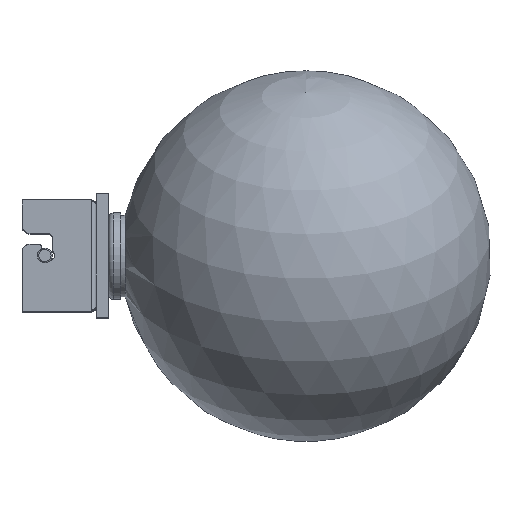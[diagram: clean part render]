
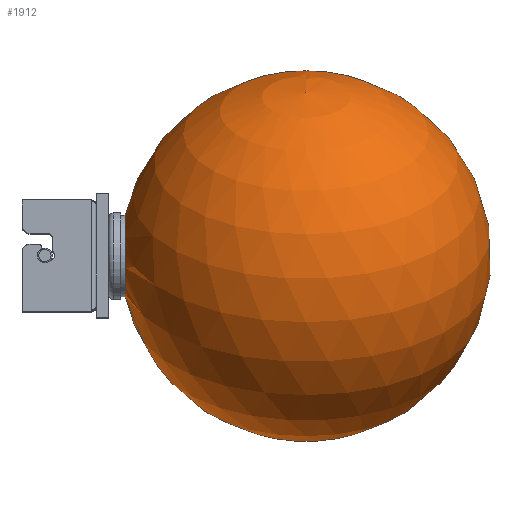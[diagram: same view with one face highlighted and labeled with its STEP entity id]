
A CAD part, top view. The second image highlights one B-rep face of the part: STEP entity #1912.
In plain terms, the highlighted spherical face has radius 75 mm.
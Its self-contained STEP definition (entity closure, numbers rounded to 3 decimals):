
#40=B_SPLINE_CURVE_WITH_KNOTS('',3,(#3451,#3452,#3453,#3454,#3455,#3456,
#3457,#3458,#3459,#3460,#3461,#3462,#3463,#3464,#3465,#3466,#3467,#3468,
#3469,#3470,#3471,#3472,#3473,#3474,#3475,#3476,#3477,#3478,#3479,#3480,
#3481,#3482,#3483,#3484),.UNSPECIFIED.,.F.,.F.,(4,2,2,2,2,2,2,2,2,2,2,2,
2,2,2,2,4),(0.,0.311,0.622,0.932,1.243,
1.554,1.865,2.175,2.486,2.797,
3.108,3.418,3.729,4.04,4.351,
4.662,4.972),.UNSPECIFIED.);
#41=B_SPLINE_CURVE_WITH_KNOTS('',3,(#3485,#3486,#3487,#3488,#3489,#3490,
#3491,#3492,#3493,#3494,#3495,#3496,#3497,#3498,#3499,#3500,#3501,#3502,
#3503,#3504,#3505,#3506,#3507,#3508,#3509,#3510,#3511,#3512,#3513,#3514,
#3515,#3516,#3517,#3518),.UNSPECIFIED.,.F.,.F.,(4,2,2,2,2,2,2,2,2,2,2,2,
2,2,2,2,4),(4.972,5.283,5.594,5.905,
6.215,6.526,6.837,7.148,7.458,
7.769,8.08,8.391,8.701,9.012,
9.323,9.634,9.945),.UNSPECIFIED.);
#50=FACE_BOUND('',#341,.T.);
#56=SPHERICAL_SURFACE('',#2115,75.);
#222=FACE_OUTER_BOUND('',#340,.T.);
#340=EDGE_LOOP('',(#1703,#1704));
#341=EDGE_LOOP('',(#1705,#1706));
#437=CIRCLE('',#2116,75.);
#924=VERTEX_POINT('',#3446);
#925=VERTEX_POINT('',#3447);
#926=VERTEX_POINT('',#3449);
#927=VERTEX_POINT('',#3450);
#1190=EDGE_CURVE('',#924,#925,#437,.T.);
#1191=EDGE_CURVE('',#926,#927,#40,.T.);
#1192=EDGE_CURVE('',#927,#926,#41,.T.);
#1703=ORIENTED_EDGE('',*,*,#1190,.T.);
#1704=ORIENTED_EDGE('',*,*,#1190,.F.);
#1705=ORIENTED_EDGE('',*,*,#1191,.T.);
#1706=ORIENTED_EDGE('',*,*,#1192,.T.);
#1912=ADVANCED_FACE('',(#222,#50),#56,.T.);
#2115=AXIS2_PLACEMENT_3D('',#3445,#2627,#2628);
#2116=AXIS2_PLACEMENT_3D('',#3448,#2629,#2630);
#2627=DIRECTION('center_axis',(0.,-0.883,-0.469));
#2628=DIRECTION('ref_axis',(0.,-0.469,0.883));
#2629=DIRECTION('center_axis',(1.,0.,0.));
#2630=DIRECTION('ref_axis',(0.,0.469,-0.883));
#3445=CARTESIAN_POINT('Origin',(114.911,0.052,75.));
#3446=CARTESIAN_POINT('',(114.911,-66.194,39.837));
#3447=CARTESIAN_POINT('',(114.911,66.298,110.163));
#3448=CARTESIAN_POINT('Origin',(114.911,0.052,75.));
#3449=CARTESIAN_POINT('',(41.77,-13.987,83.851));
#3450=CARTESIAN_POINT('',(41.727,13.987,66.344));
#3451=CARTESIAN_POINT('Ctrl Pts',(41.77,-13.987,83.851));
#3452=CARTESIAN_POINT('Ctrl Pts',(41.77,-14.536,82.973));
#3453=CARTESIAN_POINT('Ctrl Pts',(41.769,-15.02,82.013));
#3454=CARTESIAN_POINT('Ctrl Pts',(41.766,-15.797,79.985));
#3455=CARTESIAN_POINT('Ctrl Pts',(41.765,-16.089,78.918));
#3456=CARTESIAN_POINT('Ctrl Pts',(41.763,-16.454,76.748));
#3457=CARTESIAN_POINT('Ctrl Pts',(41.761,-16.527,75.644));
#3458=CARTESIAN_POINT('Ctrl Pts',(41.758,-16.456,73.473));
#3459=CARTESIAN_POINT('Ctrl Pts',(41.757,-16.312,72.407));
#3460=CARTESIAN_POINT('Ctrl Pts',(41.754,-15.847,70.388));
#3461=CARTESIAN_POINT('Ctrl Pts',(41.752,-15.511,69.366));
#3462=CARTESIAN_POINT('Ctrl Pts',(41.749,-14.626,67.383));
#3463=CARTESIAN_POINT('Ctrl Pts',(41.747,-14.078,66.422));
#3464=CARTESIAN_POINT('Ctrl Pts',(41.744,-12.802,64.63));
#3465=CARTESIAN_POINT('Ctrl Pts',(41.742,-12.072,63.798));
#3466=CARTESIAN_POINT('Ctrl Pts',(41.739,-10.487,62.313));
#3467=CARTESIAN_POINT('Ctrl Pts',(41.738,-9.632,61.661));
#3468=CARTESIAN_POINT('Ctrl Pts',(41.735,-7.876,60.562));
#3469=CARTESIAN_POINT('Ctrl Pts',(41.733,-6.915,60.077));
#3470=CARTESIAN_POINT('Ctrl Pts',(41.731,-4.887,59.301));
#3471=CARTESIAN_POINT('Ctrl Pts',(41.73,-3.82,59.008));
#3472=CARTESIAN_POINT('Ctrl Pts',(41.728,-1.65,58.644));
#3473=CARTESIAN_POINT('Ctrl Pts',(41.727,-0.546,58.571));
#3474=CARTESIAN_POINT('Ctrl Pts',(41.726,1.625,58.642));
#3475=CARTESIAN_POINT('Ctrl Pts',(41.725,2.691,58.786));
#3476=CARTESIAN_POINT('Ctrl Pts',(41.724,4.71,59.25));
#3477=CARTESIAN_POINT('Ctrl Pts',(41.724,5.732,59.587));
#3478=CARTESIAN_POINT('Ctrl Pts',(41.724,7.715,60.472));
#3479=CARTESIAN_POINT('Ctrl Pts',(41.724,8.676,61.02));
#3480=CARTESIAN_POINT('Ctrl Pts',(41.724,10.468,62.296));
#3481=CARTESIAN_POINT('Ctrl Pts',(41.725,11.3,63.026));
#3482=CARTESIAN_POINT('Ctrl Pts',(41.726,12.785,64.611));
#3483=CARTESIAN_POINT('Ctrl Pts',(41.726,13.437,65.466));
#3484=CARTESIAN_POINT('Ctrl Pts',(41.727,13.987,66.344));
#3485=CARTESIAN_POINT('Ctrl Pts',(41.727,13.987,66.344));
#3486=CARTESIAN_POINT('Ctrl Pts',(41.728,14.536,67.222));
#3487=CARTESIAN_POINT('Ctrl Pts',(41.729,15.02,68.183));
#3488=CARTESIAN_POINT('Ctrl Pts',(41.731,15.797,70.211));
#3489=CARTESIAN_POINT('Ctrl Pts',(41.732,16.089,71.278));
#3490=CARTESIAN_POINT('Ctrl Pts',(41.735,16.454,73.448));
#3491=CARTESIAN_POINT('Ctrl Pts',(41.736,16.527,74.552));
#3492=CARTESIAN_POINT('Ctrl Pts',(41.739,16.456,76.722));
#3493=CARTESIAN_POINT('Ctrl Pts',(41.741,16.312,77.789));
#3494=CARTESIAN_POINT('Ctrl Pts',(41.744,15.847,79.808));
#3495=CARTESIAN_POINT('Ctrl Pts',(41.745,15.511,80.829));
#3496=CARTESIAN_POINT('Ctrl Pts',(41.749,14.626,82.812));
#3497=CARTESIAN_POINT('Ctrl Pts',(41.75,14.078,83.774));
#3498=CARTESIAN_POINT('Ctrl Pts',(41.754,12.802,85.566));
#3499=CARTESIAN_POINT('Ctrl Pts',(41.755,12.072,86.398));
#3500=CARTESIAN_POINT('Ctrl Pts',(41.758,10.487,87.882));
#3501=CARTESIAN_POINT('Ctrl Pts',(41.76,9.632,88.535));
#3502=CARTESIAN_POINT('Ctrl Pts',(41.763,7.876,89.634));
#3503=CARTESIAN_POINT('Ctrl Pts',(41.764,6.915,90.118));
#3504=CARTESIAN_POINT('Ctrl Pts',(41.766,4.887,90.895));
#3505=CARTESIAN_POINT('Ctrl Pts',(41.767,3.82,91.187));
#3506=CARTESIAN_POINT('Ctrl Pts',(41.769,1.65,91.552));
#3507=CARTESIAN_POINT('Ctrl Pts',(41.77,0.546,91.624));
#3508=CARTESIAN_POINT('Ctrl Pts',(41.772,-1.625,91.554));
#3509=CARTESIAN_POINT('Ctrl Pts',(41.772,-2.691,91.41));
#3510=CARTESIAN_POINT('Ctrl Pts',(41.773,-4.71,90.945));
#3511=CARTESIAN_POINT('Ctrl Pts',(41.773,-5.732,90.608));
#3512=CARTESIAN_POINT('Ctrl Pts',(41.774,-7.715,89.724));
#3513=CARTESIAN_POINT('Ctrl Pts',(41.774,-8.676,89.176));
#3514=CARTESIAN_POINT('Ctrl Pts',(41.773,-10.468,87.899));
#3515=CARTESIAN_POINT('Ctrl Pts',(41.773,-11.3,87.17));
#3516=CARTESIAN_POINT('Ctrl Pts',(41.772,-12.785,85.585));
#3517=CARTESIAN_POINT('Ctrl Pts',(41.771,-13.437,84.73));
#3518=CARTESIAN_POINT('Ctrl Pts',(41.77,-13.987,83.851));
